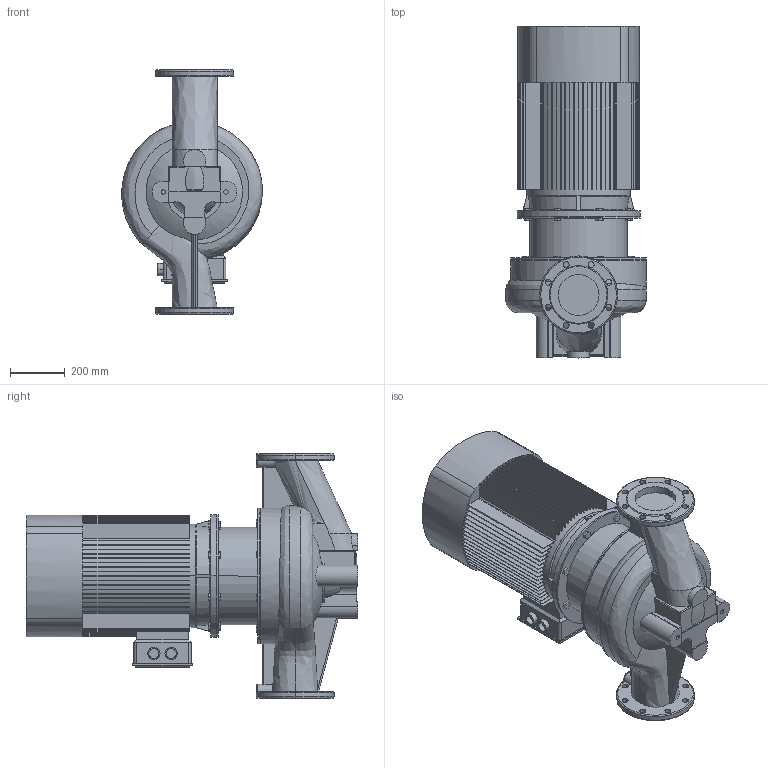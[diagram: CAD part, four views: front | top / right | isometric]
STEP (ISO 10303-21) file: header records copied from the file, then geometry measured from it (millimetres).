
FILE_DESCRIPTION (( 'STEP AP203' ), '1' );
FILE_NAME ('TD150-50_4.STEP', '2022-05-02T17:26:13', ( '' ), ( '' ), 'SwSTEP 2.0', 'SolidWorks 2019', '' );
FILE_SCHEMA (( 'CONFIG_CONTROL_DESIGN' ));
Length unit declared in the file: millimetre
Products named in the file (4): TD150-50_4; ED_B5_YE2-225M-4 (45); Fon_150_TD150-50_4; Pr_ch 150_TD150-50_4
Assembly tree (3 placements, depth 2):
  TD150-50_4
    Pr_ch 150_TD150-50_4
    Fon_150_TD150-50_4
    ED_B5_YE2-225M-4 (45)
Bounding box: 515.09 x 1215 x 900 mm (x, y, z)
Volume: 159323286.5 mm3; surface area: 5613634.4 mm2
Topology: 5 solids, 5 shells, 786 faces, 2160 edges, 1430 vertices
Faces by surface type: plane 553, cylinder 166, torus 27, bspline 21, cone 17, sphere 2
Entity records: 33501 total; most frequent: CARTESIAN_POINT 12726, ORIENTED_EDGE 4316, DIRECTION 4205, EDGE_CURVE 2158, VERTEX_POINT 1430, AXIS2_PLACEMENT_3D 1424, LINE 1357, VECTOR 1357
